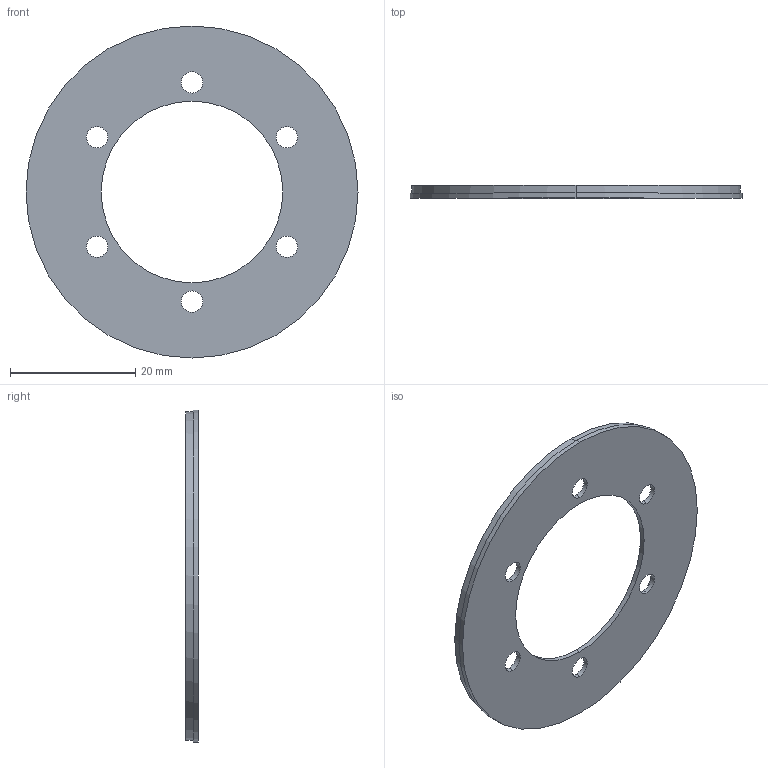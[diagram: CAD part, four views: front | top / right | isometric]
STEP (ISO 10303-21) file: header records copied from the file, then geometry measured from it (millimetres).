
FILE_DESCRIPTION (( 'STEP AP214' ), '1' );
FILE_NAME ('IRR-069-A21_rev01.STEP', '2023-11-07T17:51:49', ( '' ), ( '' ), 'SwSTEP 2.0', 'SolidWorks 2021', '' );
FILE_SCHEMA (( 'AUTOMOTIVE_DESIGN' ));
Length unit declared in the file: millimetre
Products named in the file (1): IRR-069-A21_rev01
Bounding box: 53 x 2 x 53 mm (x, y, z)
Volume: 2167.5 mm3; surface area: 5218.3 mm2
Topology: 2 solids, 2 shells, 28 faces, 72 edges, 48 vertices
Faces by surface type: cylinder 20, plane 8
Entity records: 1261 total; most frequent: DIRECTION 172, CARTESIAN_POINT 149, ORIENTED_EDGE 144, EDGE_CURVE 72, AXIS2_PLACEMENT_3D 71, VERTEX_POINT 48, EDGE_LOOP 44, CIRCLE 42
